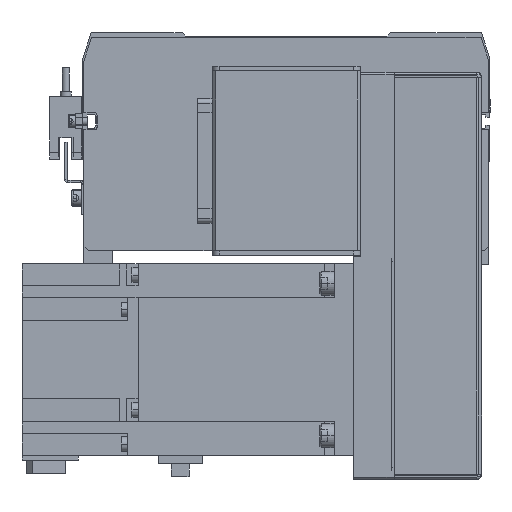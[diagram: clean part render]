
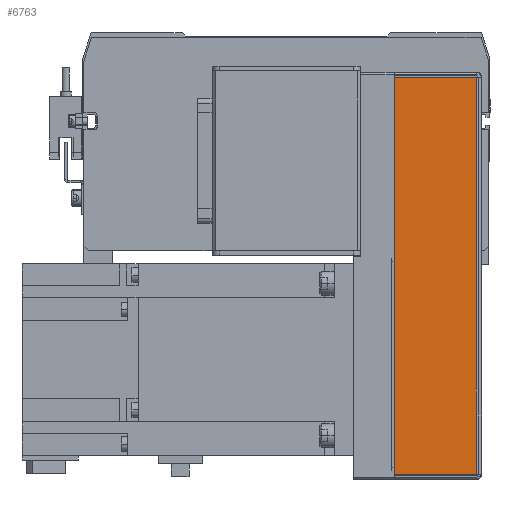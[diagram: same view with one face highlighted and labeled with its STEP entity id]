
A CAD part, front view. The second image highlights one B-rep face of the part: STEP entity #6763.
In plain terms, the highlighted planar face has unit normal (0, -1, 0).
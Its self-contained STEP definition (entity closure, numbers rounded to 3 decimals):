
#35 = ORIENTED_EDGE ( 'NONE', *, *, #28368, .F. ) ;
#1658 = VECTOR ( 'NONE', #25717, 1000. ) ;
#1898 = CARTESIAN_POINT ( 'NONE',  ( -67.862, -45.778, 177. ) ) ;
#3307 = EDGE_CURVE ( 'NONE', #26561, #16129, #28429, .T. ) ;
#3452 = EDGE_CURVE ( 'NONE', #21251, #33984, #25219, .T. ) ;
#3655 = ORIENTED_EDGE ( 'NONE', *, *, #3307, .T. ) ;
#4236 = VECTOR ( 'NONE', #4913, 1000. ) ;
#4350 = CARTESIAN_POINT ( 'NONE',  ( 14.931, -45.778, 177. ) ) ;
#4913 = DIRECTION ( 'NONE',  ( 0., 0., -1. ) ) ;
#6763 = ADVANCED_FACE ( 'NONE', ( #35036 ), #9673, .F. ) ;
#9673 = PLANE ( 'NONE',  #33828 ) ;
#9677 = EDGE_LOOP ( 'NONE', ( #20543, #35, #3655, #19723 ) ) ;
#11304 = CARTESIAN_POINT ( 'NONE',  ( 97.724, -45.778, 212. ) ) ;
#13140 = LINE ( 'NONE', #4350, #1658 ) ;
#14051 = LINE ( 'NONE', #32299, #34156 ) ;
#15641 = DIRECTION ( 'NONE',  ( 0., 1., 0. ) ) ;
#16129 = VERTEX_POINT ( 'NONE', #1898 ) ;
#19723 = ORIENTED_EDGE ( 'NONE', *, *, #31426, .T. ) ;
#20543 = ORIENTED_EDGE ( 'NONE', *, *, #3452, .F. ) ;
#21251 = VERTEX_POINT ( 'NONE', #24865 ) ;
#22597 = CARTESIAN_POINT ( 'NONE',  ( 97.724, -45.778, 177. ) ) ;
#23085 = CARTESIAN_POINT ( 'NONE',  ( -67.862, -45.778, 211.263 ) ) ;
#24865 = CARTESIAN_POINT ( 'NONE',  ( 97.724, -45.778, 211.263 ) ) ;
#24999 = CARTESIAN_POINT ( 'NONE',  ( 14.931, -45.778, 213.5 ) ) ;
#25219 = LINE ( 'NONE', #11304, #4236 ) ;
#25717 = DIRECTION ( 'NONE',  ( 1., 0., 0. ) ) ;
#26561 = VERTEX_POINT ( 'NONE', #23085 ) ;
#28236 = DIRECTION ( 'NONE',  ( 0., 0., 1. ) ) ;
#28368 = EDGE_CURVE ( 'NONE', #26561, #21251, #14051, .T. ) ;
#28429 = LINE ( 'NONE', #34843, #33178 ) ;
#29492 = DIRECTION ( 'NONE',  ( 1., 0., 0. ) ) ;
#31426 = EDGE_CURVE ( 'NONE', #16129, #33984, #13140, .T. ) ;
#32299 = CARTESIAN_POINT ( 'NONE',  ( 99.931, -45.778, 211.263 ) ) ;
#33178 = VECTOR ( 'NONE', #38182, 1000. ) ;
#33828 = AXIS2_PLACEMENT_3D ( 'NONE', #24999, #15641, #28236 ) ;
#33984 = VERTEX_POINT ( 'NONE', #22597 ) ;
#34156 = VECTOR ( 'NONE', #29492, 1000. ) ;
#34843 = CARTESIAN_POINT ( 'NONE',  ( -67.862, -45.778, 213.5 ) ) ;
#35036 = FACE_OUTER_BOUND ( 'NONE', #9677, .T. ) ;
#38182 = DIRECTION ( 'NONE',  ( 0., 0., -1. ) ) ;
